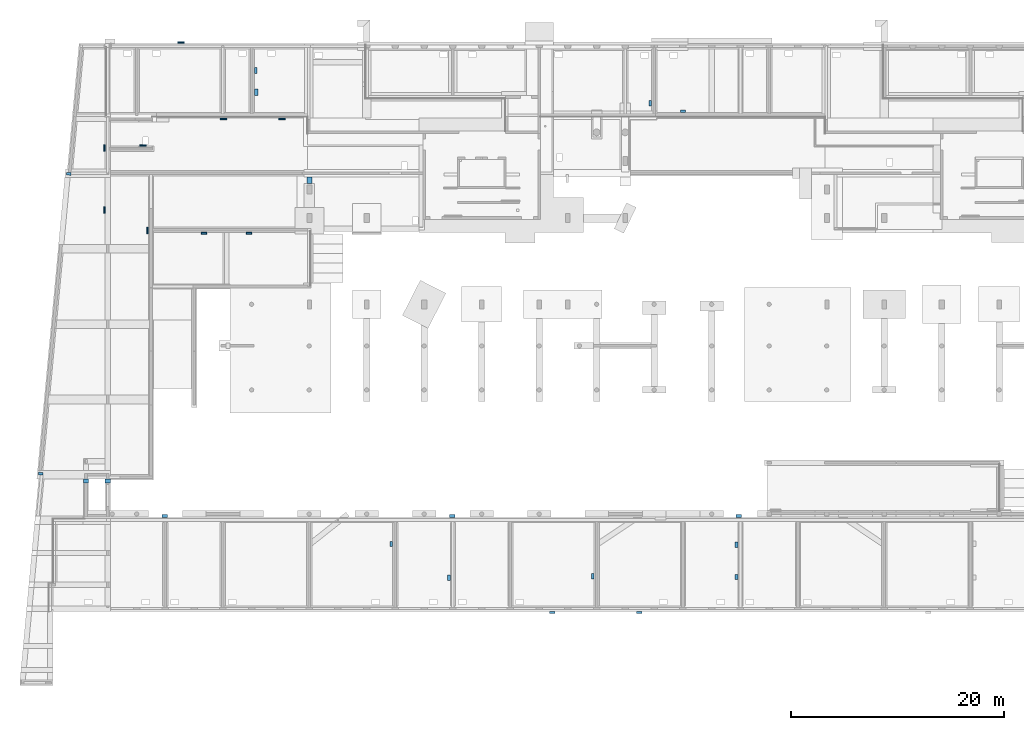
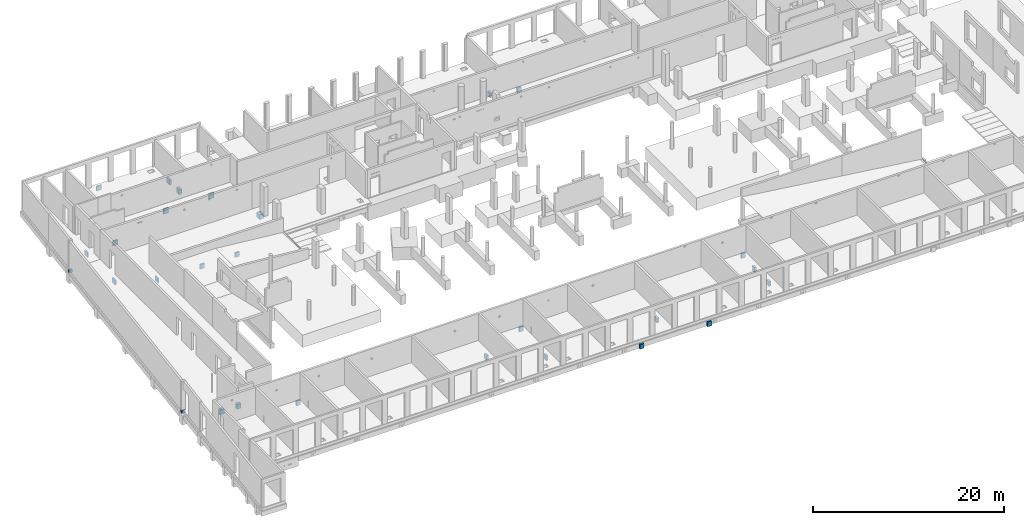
# One storey, part 10 of 60: 28 footings.
"""IFC2X3 building model written with IfcOpenShell, lengths in millimetres."""

from ifc_helpers import new_model, entity, si_unit, converted_unit, derived_unit, direction, frame, frame_2d, origin, origin_2d_with_axis, place, context, subcontext, project, spatial, polyline, rectangle, outline, extrude, material, element, save


model = new_model("IFC2X3")

# Units and contexts
model_context = context("Model", 3, precision=0.01, world=origin(), true_north=direction((6.12303176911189e-17, 1.0)))
body_context = subcontext(model_context, "Body", "Model", "MODEL_VIEW")
ifc_project = project(units=[si_unit("LENGTHUNIT", "METRE", prefix="MILLI"), si_unit("AREAUNIT", "SQUARE_METRE"), si_unit("VOLUMEUNIT", "CUBIC_METRE"), converted_unit("PLANEANGLEUNIT", "DEGREE", entity("IfcRatioMeasure", 0.0174532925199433), si_unit("PLANEANGLEUNIT", "RADIAN"), dimensions=[0, 0, 0, 0, 0, 0, 0]), si_unit("MASSUNIT", "GRAM", prefix="KILO"), derived_unit("MASSDENSITYUNIT", [(si_unit("MASSUNIT", "GRAM", prefix="KILO"), 1), (si_unit("LENGTHUNIT", "METRE"), -3)]), si_unit("TIMEUNIT", "SECOND"), si_unit("FREQUENCYUNIT", "HERTZ"), si_unit("THERMODYNAMICTEMPERATUREUNIT", "DEGREE_CELSIUS"), derived_unit("THERMALTRANSMITTANCEUNIT", [(si_unit("MASSUNIT", "GRAM", prefix="KILO"), 1), (si_unit("THERMODYNAMICTEMPERATUREUNIT", "KELVIN"), -1), (si_unit("TIMEUNIT", "SECOND"), -3)]), derived_unit("VOLUMETRICFLOWRATEUNIT", [(si_unit("LENGTHUNIT", "METRE"), 3), (si_unit("TIMEUNIT", "SECOND"), -1)]), si_unit("ELECTRICCURRENTUNIT", "AMPERE"), si_unit("ELECTRICVOLTAGEUNIT", "VOLT"), si_unit("POWERUNIT", "WATT"), si_unit("FORCEUNIT", "NEWTON", prefix="KILO"), si_unit("ILLUMINANCEUNIT", "LUX"), si_unit("LUMINOUSFLUXUNIT", "LUMEN"), si_unit("LUMINOUSINTENSITYUNIT", "CANDELA"), derived_unit("USERDEFINED", [(si_unit("MASSUNIT", "GRAM", prefix="KILO"), -1), (si_unit("LENGTHUNIT", "METRE"), -2), (si_unit("TIMEUNIT", "SECOND"), 3), (si_unit("LUMINOUSFLUXUNIT", "LUMEN"), 1)]), derived_unit("LINEARVELOCITYUNIT", [(si_unit("LENGTHUNIT", "METRE"), 1), (si_unit("TIMEUNIT", "SECOND"), -1)]), si_unit("PRESSUREUNIT", "PASCAL"), derived_unit("USERDEFINED", [(si_unit("LENGTHUNIT", "METRE"), -2), (si_unit("MASSUNIT", "GRAM", prefix="KILO"), 1), (si_unit("TIMEUNIT", "SECOND"), -2)])], contexts=[model_context])

# Site, building, storey
site_placement = place(None, origin())
site = spatial("IfcSite", under=ifc_project, at=site_placement, Name="Default", CompositionType="ELEMENT")
building_placement = place(site_placement, origin())
building = spatial("IfcBuilding", under=site, at=building_placement, Name="niet gebruiken", CompositionType="ELEMENT")
storey_placement = place(building_placement, origin())
storey = spatial("IfcBuildingStorey", under=building, at=storey_placement, Name="00 begane grond", CompositionType="ELEMENT", Elevation=0.0)

# Footings
ifc_material = material(Name="NLRS_f2_beton ihwg")
footing_1_placement = place(storey_placement, origin())
element("IfcFooting", 1, at=footing_1_placement, inside=storey, material=ifc_material, Name="NLRS_16.12_SF_WPB_opstort ihwg recht_gen:250x332", ObjectType="NLRS_16.12_SF_WPB_opstort ihwg recht_gen:250x332", PredefinedType="FOOTING_BEAM", context=body_context, shape_type="SweptSolid", body=[
    extrude(rectangle(XDim=429.999999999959, YDim=250.000000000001, at=frame_2d((0.000117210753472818, -6.3948846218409e-13), x_axis=(1.0, 0.0))), frame((1802.30637935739, 12977.2359766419, -402.0), z_axis=(0.0, 0.0, 1.0), x_axis=(0.995731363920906, -0.0922987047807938, 0.0)), (0.0, 0.0, 1.0), 331.999999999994),
])
footing_2_placement = place(storey_placement, origin())
element("IfcFooting", 2, at=footing_2_placement, inside=storey, material=ifc_material, Name="NLRS_16.12_SF_WPB_opstort ihwg recht_gen:250x332", ObjectType="NLRS_16.12_SF_WPB_opstort ihwg recht_gen:250x332", PredefinedType="FOOTING_BEAM", context=body_context, shape_type="SweptSolid", body=[
    extrude(outline(polyline([(-254.469134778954, -101.22682736), (-4.487548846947, -101.22682736), (175.54218469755, -101.22682736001), (175.542184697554, 6.13413680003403), (162.341449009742, 148.773172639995), (-254.469134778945, 148.773172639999), (-254.469134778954, -101.22682736)])), frame((4449.63948936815, 41109.1817342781, -402.0), z_axis=(0.0, 0.0, 1.0), x_axis=(0.995744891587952, -0.092152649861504, 0.0)), (0.0, 0.0, 1.0), 331.999999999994),
])
footing_3_placement = place(storey_placement, origin())
element("IfcFooting", 3, at=footing_3_placement, inside=storey, material=ifc_material, Name="NLRS_16.12_SF_WPB_funderingsbalk ihwg recht_gen:500x600", ObjectType="NLRS_16.12_SF_WPB_funderingsbalk ihwg recht_gen:500x600", PredefinedType="FOOTING_BEAM", context=body_context, shape_type="SweptSolid", body=[
    extrude(rectangle(XDim=615.539517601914, YDim=499.999999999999, at=frame_2d((4.32009983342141e-12, 0.0), x_axis=(1.0, 0.0))), frame((27025.0, 40528.230241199, -1002.0), z_axis=(0.0, 0.0, 1.0), x_axis=(0.0, 1.0, 0.0)), (0.0, 0.0, 1.0), 599.999999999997),
])
footing_4_placement = place(storey_placement, origin())
element("IfcFooting", 4, at=footing_4_placement, inside=storey, material=ifc_material, Name="NLRS_16.12_SF_WPB_funderingsbalk ihwg recht_gen:500x600", ObjectType="NLRS_16.12_SF_WPB_funderingsbalk ihwg recht_gen:500x600", PredefinedType="FOOTING_BEAM", context=body_context, shape_type="SweptSolid", body=[
    extrude(rectangle(XDim=350.000000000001, YDim=500.0, at=frame_2d((0.0, -5.40012479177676e-13), x_axis=(1.0, 0.0))), frame((6050.0, 12286.0, -1602.0), z_axis=(0.0, 0.0, 1.0), x_axis=(0.0, 1.0, 0.0)), (0.0, 0.0, 1.0), 599.999999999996),
])
footing_5_placement = place(storey_placement, origin())
element("IfcFooting", 5, at=footing_5_placement, inside=storey, material=ifc_material, Name="NLRS_16.12_SF_WPB_funderingsbalk ihwg recht_gen:500x600", ObjectType="NLRS_16.12_SF_WPB_funderingsbalk ihwg recht_gen:500x600", PredefinedType="FOOTING_BEAM", context=body_context, shape_type="SweptSolid", body=[
    extrude(rectangle(XDim=349.999999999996, YDim=500.0, at=frame_2d((0.0, 5.40012479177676e-13), x_axis=(1.0, 0.0))), frame((8100.0, 12286.0, -1602.0), z_axis=(0.0, 0.0, 1.0), x_axis=(0.0, 1.0, 0.0)), (0.0, 0.0, 1.0), 599.999999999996),
])
footing_6_placement = place(storey_placement, origin())
element("IfcFooting", 6, at=footing_6_placement, inside=storey, material=ifc_material, Name="NLRS_16.12_SF_WPB_funderingsbalk ihwg recht_gen:600x600", ObjectType="NLRS_16.12_SF_WPB_funderingsbalk ihwg recht_gen:600x600", PredefinedType="FOOTING_BEAM", context=body_context, shape_type="SweptSolid", body=[
    extrude(rectangle(XDim=150.000000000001, YDim=599.999999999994, at=origin_2d_with_axis()), frame((7775.0, 43558.7765479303, -1002.0)), (0.0, 0.0, 1.0), 599.999999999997),
])
footing_7_placement = place(storey_placement, origin())
element("IfcFooting", 7, at=footing_7_placement, inside=storey, material=ifc_material, Name="NLRS_16.12_SF_WPB_funderingsbalk ihwg recht_gen:600x600", ObjectType="NLRS_16.12_SF_WPB_funderingsbalk ihwg recht_gen:600x600", PredefinedType="FOOTING_BEAM", context=body_context, shape_type="SweptSolid", body=[
    extrude(rectangle(XDim=150.000000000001, YDim=600.000000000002, at=frame_2d((0.0, -2.1600499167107e-12), x_axis=(1.0, 0.0))), frame((11825.0, 35821.5090327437, -1002.0)), (0.0, 0.0, 1.0), 599.999999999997),
])
footing_8_placement = place(storey_placement, origin())
element("IfcFooting", 8, at=footing_8_placement, inside=storey, material=ifc_material, Name="NLRS_16.12_SF_WPB_funderingsbalk ihwg recht_gen:600x600", ObjectType="NLRS_16.12_SF_WPB_funderingsbalk ihwg recht_gen:600x600", PredefinedType="FOOTING_BEAM", context=body_context, shape_type="SweptSolid", body=[
    extrude(rectangle(XDim=150.000000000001, YDim=600.0, at=frame_2d((0.0, 1.08002495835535e-12), x_axis=(1.0, 0.0))), frame((11381.8767829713, 43811.0, -1002.0), z_axis=(0.0, 0.0, 1.0), x_axis=(0.0, -1.0, 0.0)), (0.0, 0.0, 1.0), 599.999999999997),
])
footing_9_placement = place(storey_placement, origin())
element("IfcFooting", 9, at=footing_9_placement, inside=storey, material=ifc_material, Name="NLRS_16.12_SF_WPB_funderingsbalk ihwg recht_gen:600x600", ObjectType="NLRS_16.12_SF_WPB_funderingsbalk ihwg recht_gen:600x600", PredefinedType="FOOTING_BEAM", context=body_context, shape_type="SweptSolid", body=[
    extrude(rectangle(XDim=150.000000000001, YDim=600.000000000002, at=frame_2d((0.0, -2.1600499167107e-12), x_axis=(1.0, 0.0))), frame((7775.0, 37755.2432770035, -1002.0)), (0.0, 0.0, 1.0), 599.999999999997),
])
footing_10_placement = place(storey_placement, origin())
element("IfcFooting", 10, at=footing_10_placement, inside=storey, material=ifc_material, Name="NLRS_16.12_SF_WPB_funderingsbalk ihwg recht_gen:500x600", ObjectType="NLRS_16.12_SF_WPB_funderingsbalk ihwg recht_gen:500x600", PredefinedType="FOOTING_BEAM", context=body_context, shape_type="SweptSolid", body=[
    extrude(rectangle(XDim=249.999999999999, YDim=499.999999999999, at=origin_2d_with_axis()), frame((13441.7462136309, 8996.0, -1092.0), z_axis=(0.0, 0.0, 1.0), x_axis=(0.0, 1.0, 0.0)), (0.0, 0.0, 1.0), 599.999999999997),
])
footing_11_placement = place(storey_placement, origin())
element("IfcFooting", 11, at=footing_11_placement, inside=storey, material=ifc_material, Name="NLRS_16.12_SF_WPB_funderingsbalk ihwg recht_gen:500x600", ObjectType="NLRS_16.12_SF_WPB_funderingsbalk ihwg recht_gen:500x600", PredefinedType="FOOTING_BEAM", context=body_context, shape_type="SweptSolid", body=[
    extrude(rectangle(XDim=249.999999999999, YDim=499.999999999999, at=frame_2d((0.0, -4.33431068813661e-12), x_axis=(1.0, 0.0))), frame((40443.3946027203, 8996.0, -1092.0), z_axis=(0.0, 0.0, 1.0), x_axis=(0.0, 1.0, 0.0)), (0.0, 0.0, 1.0), 599.999999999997),
])
footing_12_placement = place(storey_placement, origin())
element("IfcFooting", 12, at=footing_12_placement, inside=storey, material=ifc_material, Name="NLRS_16.12_SF_WPB_funderingsbalk ihwg recht_gen:500x600", ObjectType="NLRS_16.12_SF_WPB_funderingsbalk ihwg recht_gen:500x600", PredefinedType="FOOTING_BEAM", context=body_context, shape_type="SweptSolid", body=[
    extrude(rectangle(XDim=249.999999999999, YDim=499.999999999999, at=frame_2d((0.0, -4.33431068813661e-12), x_axis=(1.0, 0.0))), frame((67332.1643890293, 8996.0, -1092.0), z_axis=(0.0, 0.0, 1.0), x_axis=(0.0, 1.0, 0.0)), (0.0, 0.0, 1.0), 599.999999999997),
])
footing_13_placement = place(storey_placement, origin())
element("IfcFooting", 13, at=footing_13_placement, inside=storey, material=ifc_material, Name="NLRS_16.12_SF_WPB_funderingsbalk ihwg recht_gen:500x600", ObjectType="NLRS_16.12_SF_WPB_funderingsbalk ihwg recht_gen:500x600", PredefinedType="FOOTING_BEAM", context=body_context, shape_type="SweptSolid", body=[
    extrude(rectangle(XDim=249.999999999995, YDim=500.0, at=origin_2d_with_axis()), frame((40125.0, 3207.38064960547, -1092.0)), (0.0, 0.0, 1.0), 599.999999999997),
])
footing_14_placement = place(storey_placement, origin())
element("IfcFooting", 14, at=footing_14_placement, inside=storey, material=ifc_material, Name="NLRS_16.12_SF_WPB_funderingsbalk ihwg recht_gen:500x600", ObjectType="NLRS_16.12_SF_WPB_funderingsbalk ihwg recht_gen:500x600", PredefinedType="FOOTING_BEAM", context=body_context, shape_type="SweptSolid", body=[
    extrude(rectangle(XDim=200.0, YDim=499.999999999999, at=frame_2d((3.90798504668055e-13, -4.33431068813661e-12), x_axis=(1.0, 0.0))), frame((49833.0599688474, -50.0, -1092.0), z_axis=(0.0, 0.0, 1.0), x_axis=(0.0, 1.0, 0.0)), (0.0, 0.0, 1.0), 599.999999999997),
])
footing_15_placement = place(storey_placement, origin())
element("IfcFooting", 15, at=footing_15_placement, inside=storey, material=ifc_material, Name="NLRS_16.12_SF_WPB_funderingsbalk ihwg recht_gen:500x600", ObjectType="NLRS_16.12_SF_WPB_funderingsbalk ihwg recht_gen:500x600", PredefinedType="FOOTING_BEAM", context=body_context, shape_type="SweptSolid", body=[
    extrude(rectangle(XDim=200.000000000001, YDim=499.999999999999, at=frame_2d((3.90798504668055e-13, -4.33431068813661e-12), x_axis=(1.0, 0.0))), frame((58011.9148747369, -50.0, -1092.0), z_axis=(0.0, 0.0, 1.0), x_axis=(0.0, 1.0, 0.0)), (0.0, 0.0, 1.0), 599.999999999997),
])
footing_16_placement = place(storey_placement, origin())
element("IfcFooting", 16, at=footing_16_placement, inside=storey, material=ifc_material, Name="NLRS_16.12_SF_WPB_funderingsbalk ihwg recht_gen:500x600", ObjectType="NLRS_16.12_SF_WPB_funderingsbalk ihwg recht_gen:500x600", PredefinedType="FOOTING_BEAM", context=body_context, shape_type="SweptSolid", body=[
    extrude(rectangle(XDim=249.999999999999, YDim=500.0, at=frame_2d((2.1600499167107e-12, 0.0), x_axis=(1.0, 0.0))), frame((34725.0, 6374.7398196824, -1092.0)), (0.0, 0.0, 1.0), 599.999999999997),
])
footing_17_placement = place(storey_placement, origin())
element("IfcFooting", 17, at=footing_17_placement, inside=storey, material=ifc_material, Name="NLRS_16.12_SF_WPB_funderingsbalk ihwg recht_gen:500x600", ObjectType="NLRS_16.12_SF_WPB_funderingsbalk ihwg recht_gen:500x600", PredefinedType="FOOTING_BEAM", context=body_context, shape_type="SweptSolid", body=[
    extrude(rectangle(XDim=249.999999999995, YDim=500.0, at=frame_2d((-8.66151594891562e-12, 0.0), x_axis=(1.0, 0.0))), frame((53625.0, 3349.68818353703, -1092.0)), (0.0, 0.0, 1.0), 599.999999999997),
])
footing_18_placement = place(storey_placement, origin())
element("IfcFooting", 18, at=footing_18_placement, inside=storey, material=ifc_material, Name="NLRS_16.12_SF_WPB_funderingsbalk ihwg recht_gen:500x600", ObjectType="NLRS_16.12_SF_WPB_funderingsbalk ihwg recht_gen:500x600", PredefinedType="FOOTING_BEAM", context=body_context, shape_type="SweptSolid", body=[
    extrude(rectangle(XDim=249.999999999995, YDim=500.0, at=origin_2d_with_axis()), frame((67125.0, 6289.50292056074, -1092.0)), (0.0, 0.0, 1.0), 599.999999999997),
])
footing_19_placement = place(storey_placement, origin())
element("IfcFooting", 19, at=footing_19_placement, inside=storey, material=ifc_material, Name="NLRS_16.12_SF_WPB_funderingsbalk ihwg recht_gen:500x600", ObjectType="NLRS_16.12_SF_WPB_funderingsbalk ihwg recht_gen:500x600", PredefinedType="FOOTING_BEAM", context=body_context, shape_type="SweptSolid", body=[
    extrude(rectangle(XDim=249.999999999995, YDim=500.0, at=frame_2d((8.66151594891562e-12, 0.0), x_axis=(1.0, 0.0))), frame((67125.0, 3276.01681129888, -1092.0)), (0.0, 0.0, 1.0), 599.999999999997),
])
footing_20_placement = place(storey_placement, origin())
element("IfcFooting", 20, at=footing_20_placement, inside=storey, material=ifc_material, Name="NLRS_16.12_SF_WPB_funderingsbalk ihwg recht_gen:500x600", ObjectType="NLRS_16.12_SF_WPB_funderingsbalk ihwg recht_gen:500x600", PredefinedType="FOOTING_BEAM", context=body_context, shape_type="SweptSolid", body=[
    extrude(rectangle(XDim=249.999999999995, YDim=499.999999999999, at=frame_2d((0.0, -4.33431068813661e-12), x_axis=(1.0, 0.0))), frame((59025.0, 47764.2844066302, -1092.0)), (0.0, 0.0, 1.0), 599.999999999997),
])
footing_21_placement = place(storey_placement, origin())
element("IfcFooting", 21, at=footing_21_placement, inside=storey, material=ifc_material, Name="NLRS_16.12_SF_WPB_funderingsbalk ihwg recht_gen:500x600", ObjectType="NLRS_16.12_SF_WPB_funderingsbalk ihwg recht_gen:500x600", PredefinedType="FOOTING_BEAM", context=body_context, shape_type="SweptSolid", body=[
    extrude(rectangle(XDim=249.999999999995, YDim=499.999999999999, at=frame_2d((0.0, -4.33431068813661e-12), x_axis=(1.0, 0.0))), frame((62113.8467651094, 46996.0, -1092.0), z_axis=(0.0, 0.0, 1.0), x_axis=(0.0, -1.0, 0.0)), (0.0, 0.0, 1.0), 599.999999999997),
])
footing_22_placement = place(storey_placement, origin())
element("IfcFooting", 22, at=footing_22_placement, inside=storey, material=ifc_material, Name="NLRS_16.12_SF_WPB_funderingsbalk ihwg recht_gen:600x600", ObjectType="NLRS_16.12_SF_WPB_funderingsbalk ihwg recht_gen:600x600", PredefinedType="FOOTING_BEAM", context=body_context, shape_type="SweptSolid", body=[
    extrude(rectangle(XDim=349.99999999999, YDim=599.999999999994, at=origin_2d_with_axis()), frame((22025.0, 48796.8764605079, -1092.0)), (0.0, 0.0, 1.0), 599.999999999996),
])
footing_23_placement = place(storey_placement, origin())
element("IfcFooting", 23, at=footing_23_placement, inside=storey, material=ifc_material, Name="NLRS_16.12_SF_WPB_funderingsbalk ihwg recht_gen:600x600", ObjectType="NLRS_16.12_SF_WPB_funderingsbalk ihwg recht_gen:600x600", PredefinedType="FOOTING_BEAM", context=body_context, shape_type="SweptSolid", body=[
    extrude(rectangle(XDim=249.999999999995, YDim=599.999999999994, at=frame_2d((2.16715534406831e-12, 0.0), x_axis=(1.0, 0.0))), frame((21975.0, 50838.094427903, -1092.0)), (0.0, 0.0, 1.0), 599.999999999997),
])
footing_24_placement = place(storey_placement, origin())
element("IfcFooting", 24, at=footing_24_placement, inside=storey, material=ifc_material, Name="NLRS_16.12_SF_WPB_funderingsbalk ihwg recht_gen:600x700", ObjectType="NLRS_16.12_SF_WPB_funderingsbalk ihwg recht_gen:600x700", PredefinedType="FOOTING_BEAM", context=body_context, shape_type="SweptSolid", body=[
    extrude(rectangle(XDim=150.000000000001, YDim=600.0, at=frame_2d((0.0, 1.08002495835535e-12), x_axis=(1.0, 0.0))), frame((18964.4637137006, 46296.0, -1102.0), z_axis=(0.0, 0.0, 1.0), x_axis=(0.0, -1.0, 0.0)), (0.0, 0.0, 1.0), 699.999999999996),
])
footing_25_placement = place(storey_placement, origin())
element("IfcFooting", 25, at=footing_25_placement, inside=storey, material=ifc_material, Name="NLRS_16.12_SF_WPB_funderingsbalk ihwg recht_gen:600x700", ObjectType="NLRS_16.12_SF_WPB_funderingsbalk ihwg recht_gen:600x700", PredefinedType="FOOTING_BEAM", context=body_context, shape_type="SweptSolid", body=[
    extrude(rectangle(XDim=150.000000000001, YDim=600.000000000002, at=frame_2d((0.0, -2.1600499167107e-12), x_axis=(1.0, 0.0))), frame((24456.5492640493, 46296.0, -1102.0), z_axis=(0.0, 0.0, 1.0), x_axis=(0.0, -1.0, 0.0)), (0.0, 0.0, 1.0), 699.999999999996),
])
footing_26_placement = place(storey_placement, origin())
element("IfcFooting", 26, at=footing_26_placement, inside=storey, material=ifc_material, Name="NLRS_16.12_SF_WPB_funderingsbalk ihwg recht_gen:600x600", ObjectType="NLRS_16.12_SF_WPB_funderingsbalk ihwg recht_gen:600x600", PredefinedType="FOOTING_BEAM", context=body_context, shape_type="SweptSolid", body=[
    extrude(rectangle(XDim=150.000000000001, YDim=600.0, at=frame_2d((0.0, 1.08002495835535e-12), x_axis=(1.0, 0.0))), frame((14980.2524444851, 53456.0, -1092.0), z_axis=(0.0, 0.0, 1.0), x_axis=(0.0, -1.0, 0.0)), (0.0, 0.0, 1.0), 599.999999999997),
])
footing_27_placement = place(storey_placement, origin())
element("IfcFooting", 27, at=footing_27_placement, inside=storey, material=ifc_material, Name="NLRS_16.12_SF_WPB_funderingsbalk ihwg recht_gen:500x600", ObjectType="NLRS_16.12_SF_WPB_funderingsbalk ihwg recht_gen:500x600", PredefinedType="FOOTING_BEAM", context=body_context, shape_type="SweptSolid", body=[
    extrude(rectangle(XDim=150.000000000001, YDim=499.999999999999, at=frame_2d((0.0, -1.09423581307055e-12), x_axis=(1.0, 0.0))), frame((17122.5311179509, 35556.0, -1002.0), z_axis=(0.0, 0.0, 1.0), x_axis=(0.0, -1.0, 0.0)), (0.0, 0.0, 1.0), 599.999999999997),
])
footing_28_placement = place(storey_placement, origin())
element("IfcFooting", 28, at=footing_28_placement, inside=storey, material=ifc_material, Name="NLRS_16.12_SF_WPB_funderingsbalk ihwg recht_gen:500x600", ObjectType="NLRS_16.12_SF_WPB_funderingsbalk ihwg recht_gen:500x600", PredefinedType="FOOTING_BEAM", context=body_context, shape_type="SweptSolid", body=[
    extrude(rectangle(XDim=150.000000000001, YDim=499.999999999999, at=origin_2d_with_axis()), frame((21362.254986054, 35556.0, -1002.0), z_axis=(0.0, 0.0, 1.0), x_axis=(0.0, -1.0, 0.0)), (0.0, 0.0, 1.0), 599.999999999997),
])

save(model, "model.ifc")
